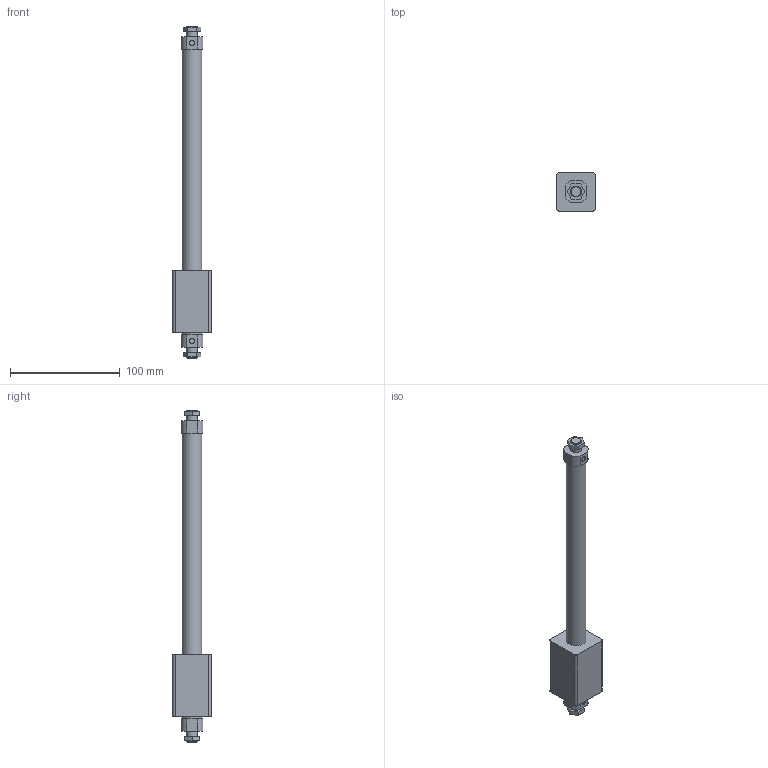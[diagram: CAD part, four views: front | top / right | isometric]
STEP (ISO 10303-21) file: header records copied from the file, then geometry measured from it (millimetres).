
FILE_DESCRIPTION( ( 'STEP AP214' ), '1' );
FILE_NAME( 'C:/Users/EMC02301/Desktop/RU0638 ESW图纸/ESW16x200.stp', '2026-07-27T11:22:18', ( 'License CC BY-ND 4.0' ), ( 'CADENAS' ), ' ', 'PARTsolutions', ' ' );
FILE_SCHEMA( ( 'AUTOMOTIVE_DESIGN { 1 0 10303 214 1 1 1 1 }' ) );
Length unit declared in the file: millimetre
Products named in the file (3): ESW16x200(0); _ESW16x200(0_dummy).boby; _ESW16x200(0_dummy).rod
Assembly tree (2 placements, depth 2):
  ESW16x200(0)
    _ESW16x200(0_dummy).boby
    _ESW16x200(0_dummy).rod
Bounding box: 35 x 35 x 303 mm (x, y, z)
Volume: 131393 mm3; surface area: 31527.4 mm2
Topology: 2 solids, 2 shells, 80 faces, 176 edges, 114 vertices
Faces by surface type: plane 42, cylinder 24, cone 14
Full cylindrical faces by diameter (mm): 3.242 x4, 4.134 x2, 10 x4, 18 x2
Entity records: 2734 total; most frequent: DIRECTION 374, CARTESIAN_POINT 339, ORIENTED_EDGE 292, EDGE_CURVE 146, AXIS2_PLACEMENT_3D 145, EDGE_LOOP 122, VERTEX_POINT 110, FACE_OUTER_BOUND 92
